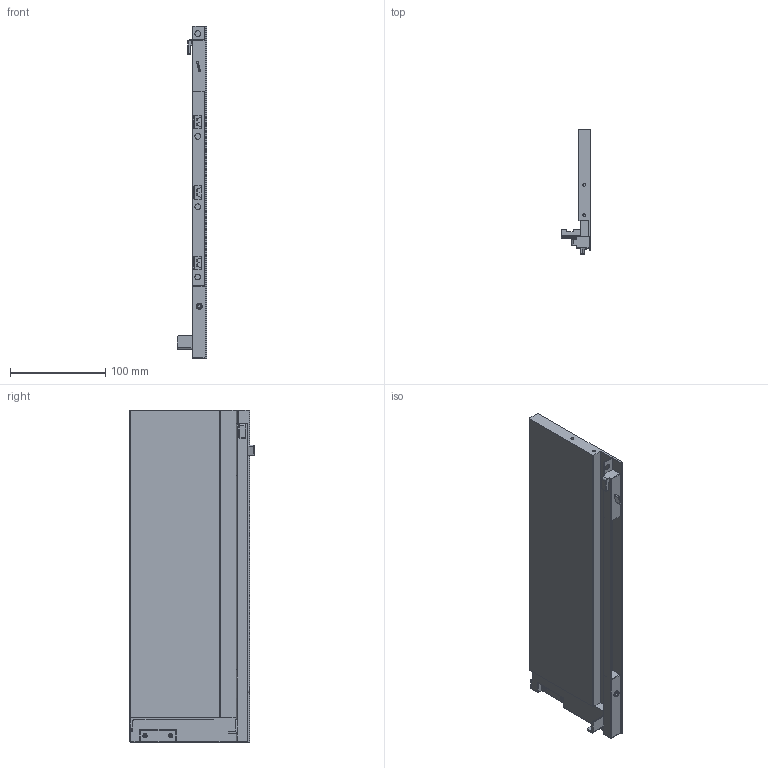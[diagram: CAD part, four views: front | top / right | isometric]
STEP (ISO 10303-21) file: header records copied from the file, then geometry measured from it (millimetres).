
FILE_DESCRIPTION (( 'STEP AP203' ), '1' );
FILE_NAME ('HT123501-R.STEP', '2020-09-14T00:53:05', ( 'Users' ), ( 'Microsoft' ), 'SwSTEP 2.0', 'SolidWorks 2018', '' );
FILE_SCHEMA (( 'CONFIG_CONTROL_DESIGN' ));
Length unit declared in the file: millimetre
Products named in the file (1): HT123501-R
Bounding box: 31.3 x 131 x 349 mm (x, y, z)
Volume: 474485.4 mm3; surface area: 117302 mm2
Topology: 1 solids, 8 shells, 402 faces, 1019 edges, 633 vertices
Faces by surface type: plane 199, cylinder 139, torus 29, bspline 23, cone 6, sphere 6
Entity records: 12552 total; most frequent: CARTESIAN_POINT 2950, ORIENTED_EDGE 2020, DIRECTION 1947, EDGE_CURVE 1010, AXIS2_PLACEMENT_3D 660, VERTEX_POINT 633, VECTOR 627, LINE 627
